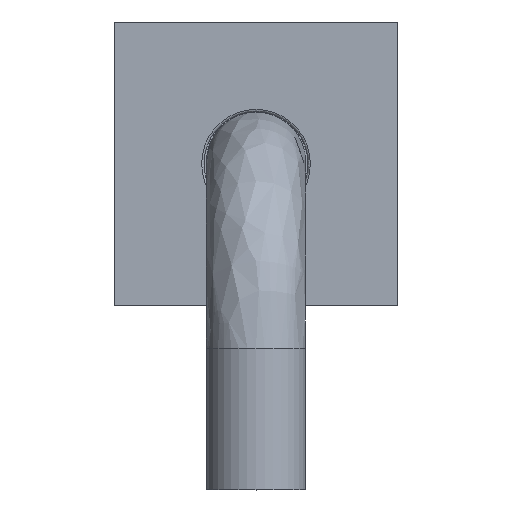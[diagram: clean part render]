
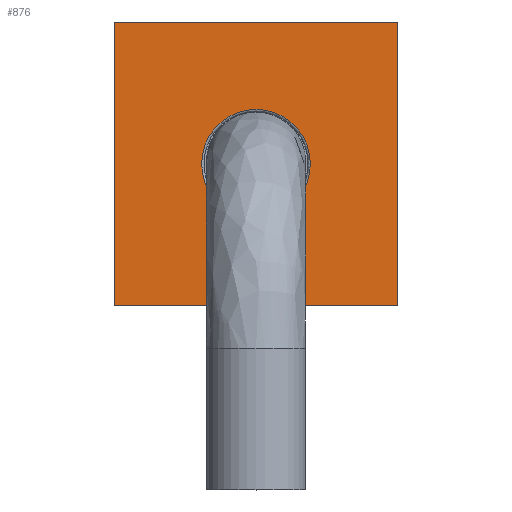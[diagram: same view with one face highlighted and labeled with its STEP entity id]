
A CAD part, top view. The second image highlights one B-rep face of the part: STEP entity #876.
In plain terms, the highlighted planar face has unit normal (0, 0, 1).
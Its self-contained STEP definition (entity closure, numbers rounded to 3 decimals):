
#449=CARTESIAN_POINT('',(11.5,0.0,12.01));
#450=VERTEX_POINT('',#449);
#458=CARTESIAN_POINT('',(-11.5,0.0,12.01));
#459=VERTEX_POINT('',#458);
#460=CARTESIAN_POINT('',(0.,0.0,12.01));
#461=DIRECTION('',(0.,0.0,-1.0));
#462=DIRECTION('',(1.0,0.0,0.));
#463=AXIS2_PLACEMENT_3D('',#460,#461,#462);
#464=CIRCLE('',#463,11.5);
#465=EDGE_CURVE('',#459,#450,#464,.T.);
#467=CARTESIAN_POINT('',(0.,0.0,12.01));
#468=DIRECTION('',(0.,0.0,-1.0));
#469=DIRECTION('',(1.0,0.0,0.));
#470=AXIS2_PLACEMENT_3D('',#467,#468,#469);
#471=CIRCLE('',#470,11.5);
#472=EDGE_CURVE('',#450,#459,#471,.T.);
#833=CARTESIAN_POINT('',(30.,30.,12.01));
#834=DIRECTION('',(0.0,0.0,-1.0));
#835=DIRECTION('',(0.0,-1.0,0.0));
#836=AXIS2_PLACEMENT_3D('',#833,#834,#835);
#837=PLANE('',#836);
#838=CARTESIAN_POINT('',(-30.,-30.0,12.01));
#839=VERTEX_POINT('',#838);
#840=CARTESIAN_POINT('',(30.,-30.0,12.01));
#841=VERTEX_POINT('',#840);
#842=CARTESIAN_POINT('',(-30.,-30.0,12.01));
#843=DIRECTION('',(1.0,0.0,0.0));
#844=VECTOR('',#843,60.0);
#845=LINE('',#842,#844);
#846=EDGE_CURVE('',#839,#841,#845,.T.);
#847=ORIENTED_EDGE('',*,*,#846,.T.);
#848=CARTESIAN_POINT('',(30.,30.0,12.01));
#849=VERTEX_POINT('',#848);
#850=CARTESIAN_POINT('',(30.,-30.0,12.01));
#851=DIRECTION('',(0.0,1.0,0.0));
#852=VECTOR('',#851,60.0);
#853=LINE('',#850,#852);
#854=EDGE_CURVE('',#841,#849,#853,.T.);
#855=ORIENTED_EDGE('',*,*,#854,.T.);
#856=CARTESIAN_POINT('',(-30.,30.0,12.01));
#857=VERTEX_POINT('',#856);
#858=CARTESIAN_POINT('',(30.,30.0,12.01));
#859=DIRECTION('',(-1.0,0.0,0.0));
#860=VECTOR('',#859,60.0);
#861=LINE('',#858,#860);
#862=EDGE_CURVE('',#849,#857,#861,.T.);
#863=ORIENTED_EDGE('',*,*,#862,.T.);
#864=CARTESIAN_POINT('',(-30.,30.0,12.01));
#865=DIRECTION('',(0.0,-1.0,0.0));
#866=VECTOR('',#865,60.0);
#867=LINE('',#864,#866);
#868=EDGE_CURVE('',#857,#839,#867,.T.);
#869=ORIENTED_EDGE('',*,*,#868,.T.);
#870=EDGE_LOOP('',(#847,#855,#863,#869));
#871=FACE_OUTER_BOUND('',#870,.T.);
#872=ORIENTED_EDGE('',*,*,#472,.T.);
#873=ORIENTED_EDGE('',*,*,#465,.T.);
#874=EDGE_LOOP('',(#872,#873));
#875=FACE_BOUND('',#874,.T.);
#876=ADVANCED_FACE('',(#871,#875),#837,.F.);
